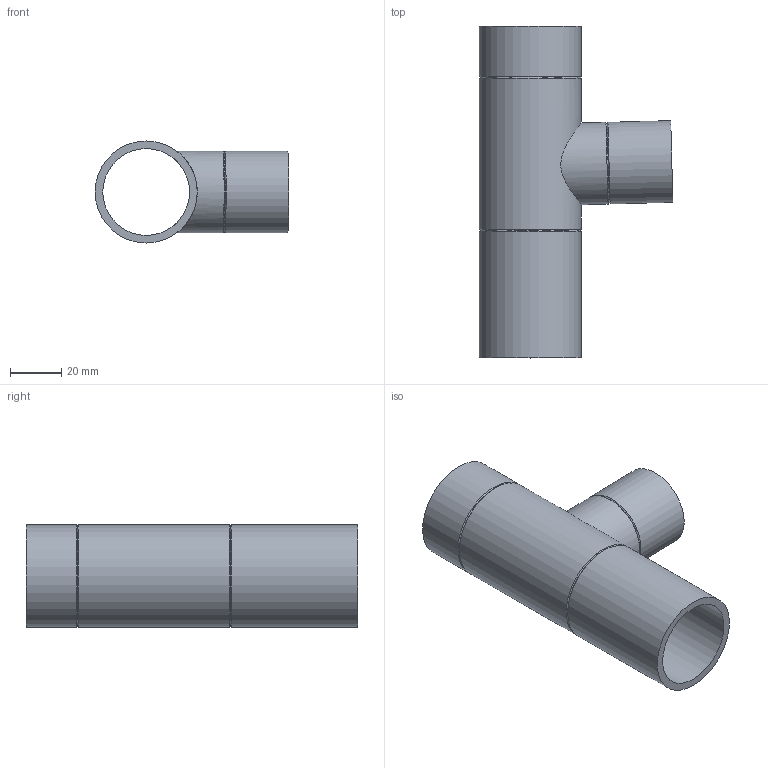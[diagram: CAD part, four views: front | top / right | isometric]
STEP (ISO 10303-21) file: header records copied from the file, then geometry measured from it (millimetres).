
FILE_DESCRIPTION(/* description */ (''),/* implementation_level */ '2;1');
FILE_NAME(/* name */ 'Z:\Geberit\Export\NewStep\360158.stp',/* time_stamp */ '2014-04-01T21:01:45+02:00',/* author */ ('nelson'),/* organization */ (''),/* preprocessor_version */ 'ST-DEVELOPER v15.2',/* originating_system */ 'Autodesk Inventor 2014',/* authorisation */ '');
FILE_SCHEMA (('AUTOMOTIVE_DESIGN { 1 0 10303 214 3 1 1 }'));
Length unit declared in the file: millimetre
Products named in the file (1): 360158
Bounding box: 75.9 x 130 x 40 mm (x, y, z)
Volume: 54082.1 mm3; surface area: 37153.1 mm2
Topology: 1 solids, 1 shells, 16 faces, 37 edges, 23 vertices
Faces by surface type: cylinder 7, cone 6, plane 3
Full cylindrical faces by diameter (mm): 26 x1, 32 x2, 34 x1, 40 x3
Entity records: 487 total; most frequent: CARTESIAN_POINT 165, DIRECTION 64, EDGE_LOOP 34, ORIENTED_EDGE 34, AXIS2_PLACEMENT_3D 32, FACE_BOUND 22, VERTEX_POINT 17, EDGE_CURVE 17
